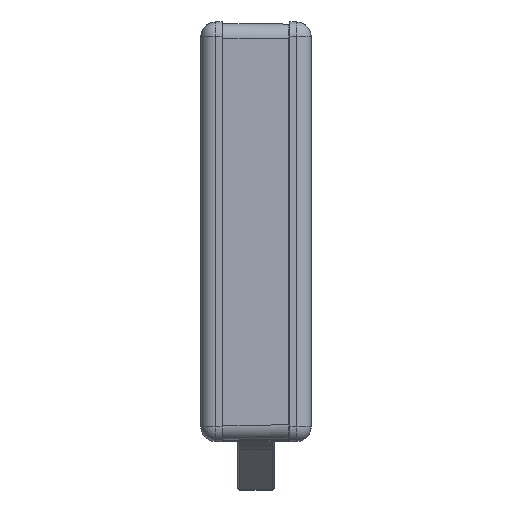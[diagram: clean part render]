
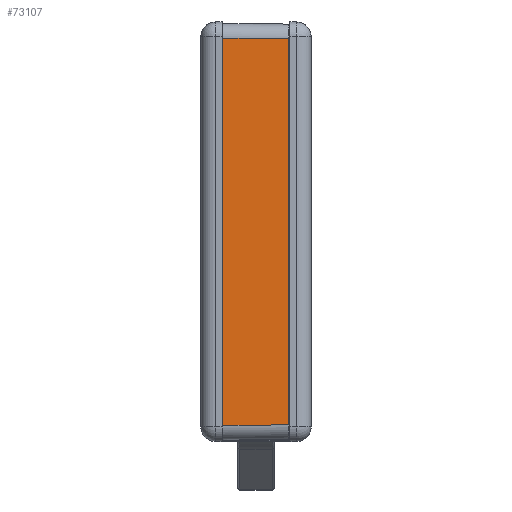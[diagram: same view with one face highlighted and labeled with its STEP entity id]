
A CAD part, left-side view. The second image highlights one B-rep face of the part: STEP entity #73107.
In plain terms, the highlighted planar face has unit normal (-1, -0.009, 0).
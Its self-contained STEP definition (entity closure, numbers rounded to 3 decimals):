
#794=DIRECTION('',(0.,0.,1.));
#795=VECTOR('',#794,52.6);
#796=CARTESIAN_POINT('',(-143.8,5.5,-25.8));
#797=LINE('',#796,#795);
#1970=CARTESIAN_POINT('',(-143.8,5.5,-25.8));
#1990=DIRECTION('',(0.009,-1.,0.009));
#1991=VECTOR('',#1990,8.902);
#1992=CARTESIAN_POINT('',(-143.8,5.5,-25.8));
#1993=LINE('',#1992,#1991);
#1997=DIRECTION('',(0.009,-1.,-0.009));
#1998=VECTOR('',#1997,8.902);
#1999=CARTESIAN_POINT('',(-143.8,5.5,26.8));
#2000=LINE('',#1999,#1998);
#2004=DIRECTION('',(0.,0.,-1.));
#2005=VECTOR('',#2004,52.445);
#2006=CARTESIAN_POINT('',(-143.722,-3.401,
26.722));
#2007=LINE('',#2006,#2005);
#2011=CARTESIAN_POINT('',(-143.8,5.5,26.8));
#66871=VERTEX_POINT('',#1970);
#66872=VERTEX_POINT('',#2011);
#67836=CARTESIAN_POINT('',(-143.722,-3.401,
-25.722));
#67837=VERTEX_POINT('',#67836);
#67838=CARTESIAN_POINT('',(-143.722,-3.401,
26.722));
#67839=VERTEX_POINT('',#67838);
#73094=CARTESIAN_POINT('',(-143.8,5.5,-27.8));
#73095=DIRECTION('',(1.,0.009,0.));
#73096=DIRECTION('',(0.,0.,-1.));
#73097=AXIS2_PLACEMENT_3D('',#73094,#73095,#73096);
#73098=PLANE('',#73097);
#73099=ORIENTED_EDGE('',*,*,#73080,.F.);
#73100=ORIENTED_EDGE('',*,*,#71423,.T.);
#73102=ORIENTED_EDGE('',*,*,#73101,.T.);
#73104=ORIENTED_EDGE('',*,*,#73103,.T.);
#73105=EDGE_LOOP('',(#73099,#73100,#73102,#73104));
#73106=FACE_OUTER_BOUND('',#73105,.F.);
#71423=EDGE_CURVE('',#66871,#66872,#797,.T.);
#73080=EDGE_CURVE('',#66871,#67837,#1993,.T.);
#73101=EDGE_CURVE('',#66872,#67839,#2000,.T.);
#73103=EDGE_CURVE('',#67839,#67837,#2007,.T.);
#73107=ADVANCED_FACE('',(#73106),#73098,.F.);
